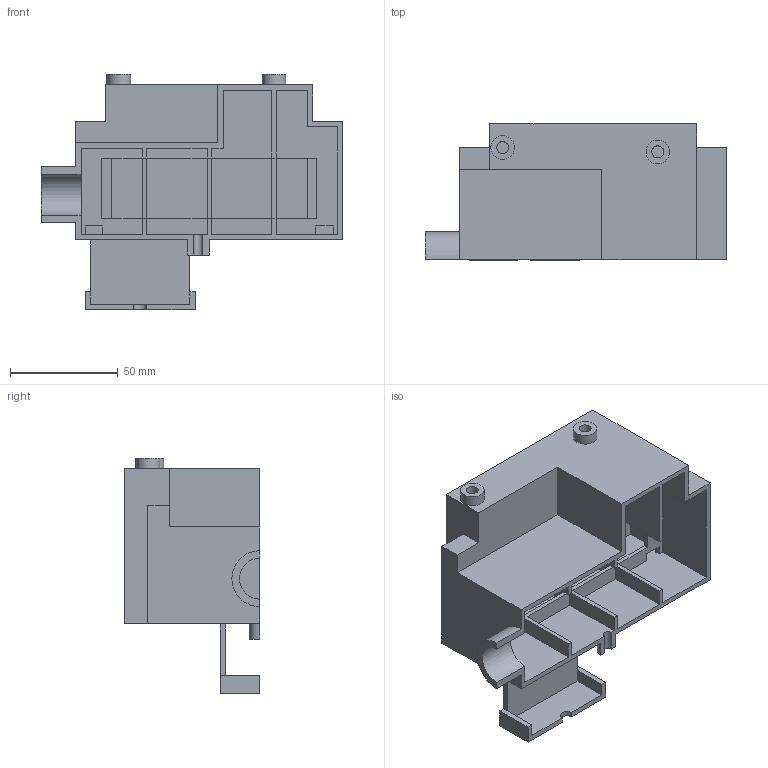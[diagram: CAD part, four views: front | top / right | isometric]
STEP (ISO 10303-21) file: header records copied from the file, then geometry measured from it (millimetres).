
FILE_DESCRIPTION(('Open CASCADE Model'),'2;1');
FILE_NAME('Open CASCADE Shape Model','2026-10-13T15:24:31',('Author'),( 'Open CASCADE'),'Open CASCADE STEP processor 8.0','build123d', 'Unknown');
FILE_SCHEMA(('AUTOMOTIVE_DESIGN { 1 0 10303 214 1 1 1 1 }'));
Length unit declared in the file: millimetre
Products named in the file (1): COMPOUND
Bounding box: 140 x 63 x 109.5 mm (x, y, z)
Volume: 109689.8 mm3; surface area: 91360 mm2
Topology: 1 solids, 1 shells, 139 faces, 424 edges, 282 vertices
Faces by surface type: plane 127, cylinder 12
Full cylindrical faces by diameter (mm): 5.6 x2, 11 x2
Entity records: 9672 total; most frequent: CARTESIAN_POINT 2266, DIRECTION 1024, ORIENTED_EDGE 848, PCURVE 848, DEFINITIONAL_REPRESENTATION 848, LINE 676, VECTOR 676, B_SPLINE_CURVE_WITH_KNOTS 548
